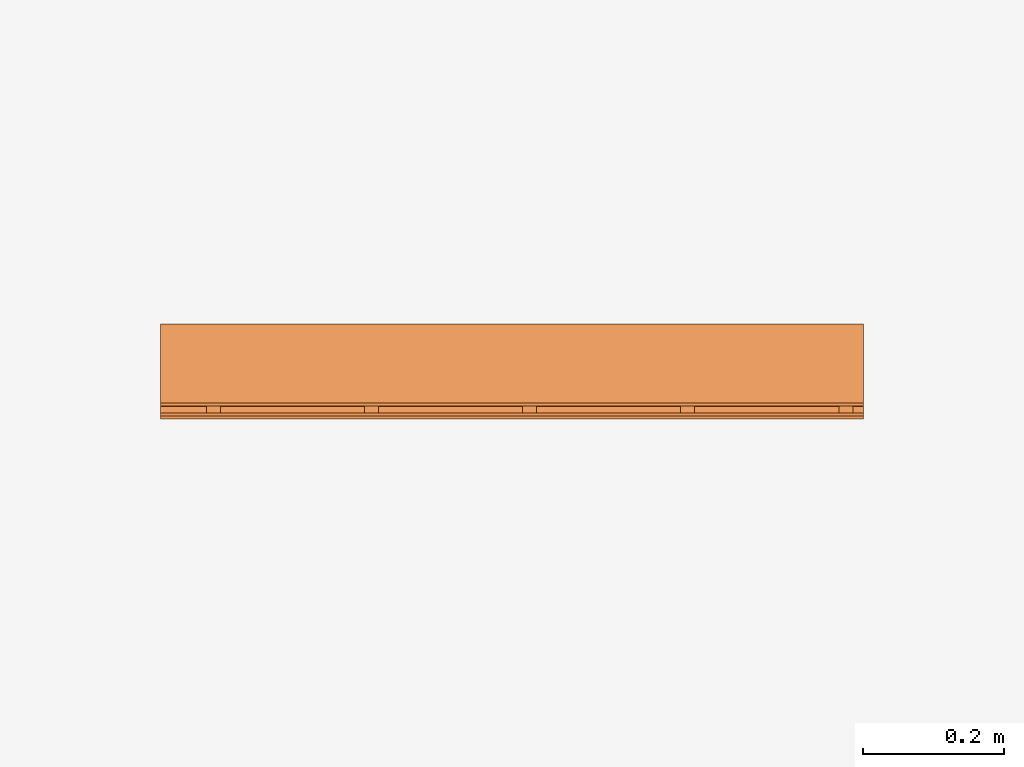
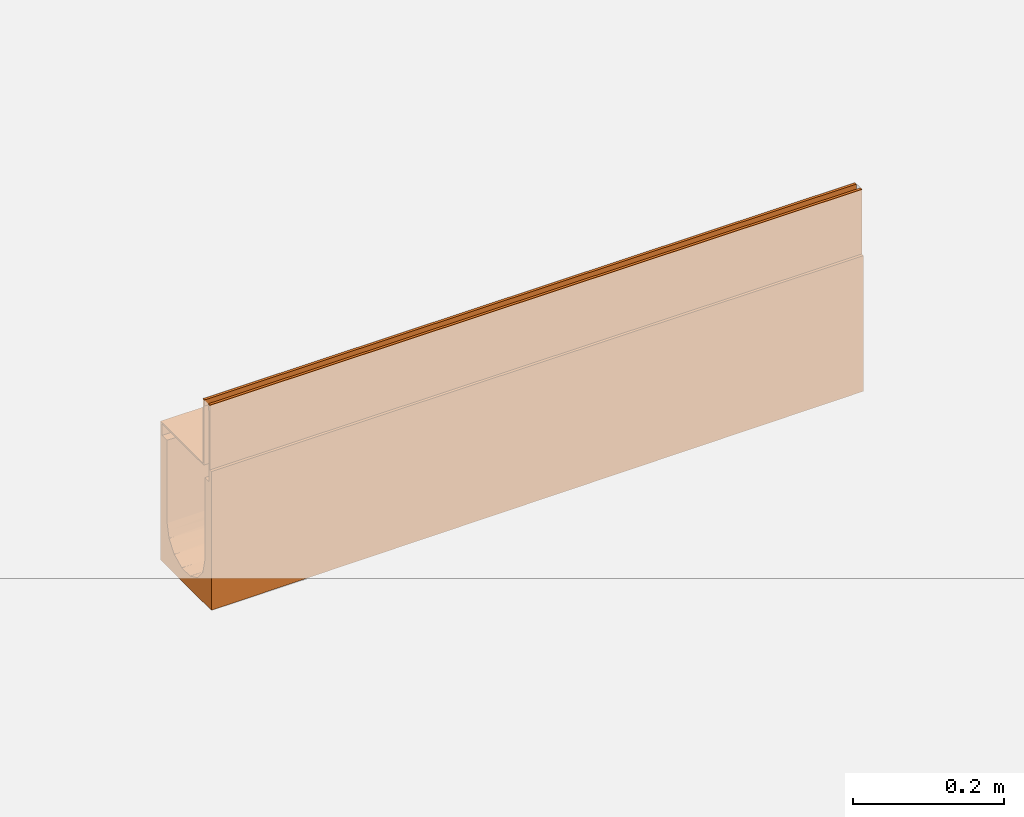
# One storey, part 2 of 2: 1 proxy.
"""IFC2X3 building model written with IfcOpenShell, lengths in millimetres."""

from ifc_helpers import new_model, entity, si_unit, converted_unit, direction, frame, origin, place, context, subcontext, project, spatial, faceted_brep, source, transform, mapped, material, material_list, element, save


model = new_model("IFC2X3")

# Units and contexts
model_context = context("Model", 3, precision=1e-06, world=origin(), true_north=direction((2.0, 6.12303176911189e-17, 1.0)))
context_of_model = context(None, 3, precision=1e-06, world=origin(), true_north=direction((2.0, 6.12303176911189e-17, 1.0)))
body_context = subcontext(model_context, "Body", "Model", "MODEL_VIEW")
ifc_project = project(units=[si_unit("LENGTHUNIT", "METRE", prefix="MILLI"), si_unit("AREAUNIT", "SQUARE_METRE", prefix="MILLI"), si_unit("VOLUMEUNIT", "CUBIC_METRE", prefix="MILLI"), converted_unit("PLANEANGLEUNIT", "DEGREE", entity("IfcRatioMeasure", 0.0174532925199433), si_unit("PLANEANGLEUNIT", "RADIAN"), dimensions=[0, 0, 0, 0, 0, 0, 0]), si_unit("TIMEUNIT", "SECOND")], contexts=[model_context, context_of_model])

# Site, building, storey
site_placement = place(None, origin())
site = spatial("IfcSite", under=ifc_project, at=site_placement, Name="Default", CompositionType="ELEMENT")
building_placement = place(site_placement, origin())
building = spatial("IfcBuilding", under=site, at=building_placement, CompositionType="ELEMENT")
storey_placement = place(building_placement, origin())
storey = spatial("IfcBuildingStorey", under=building, at=storey_placement, Name="Level 1", CompositionType="ELEMENT", Elevation=0.0)

# Proxy
ifc_material_1 = material(Name="Steel, Galvanized")
ifc_material_2 = material(Name="Vienite® Synthetic Resin Concrete")
ifc_material_list = material_list([ifc_material_1, ifc_material_2])
shared_shape = source(origin(), body_context, "Body", "Brep", [
    faceted_brep([(63.249999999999, 15.0, -107.0), (63.249999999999, 17.0, -109.0), (63.249999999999, 33.0, -109.0), (63.249999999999, 35.0, -107.0), (63.249999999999, 17.0, -123.499999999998), (63.249999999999, 15.0, -125.499999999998), (63.249999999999, 33.0, -123.499999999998), (63.249999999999, 35.0, -125.499999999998), (-61.250000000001, 15.0, -125.499999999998), (-61.250000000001, 17.0, -123.499999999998), (-61.250000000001, 33.0, -123.499999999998), (-61.250000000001, 35.0, -125.499999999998), (-61.250000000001, 17.0, -109.0), (-61.250000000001, 15.0, -107.0), (-61.250000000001, 33.0, -109.0), (-61.250000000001, 35.0, -107.0)], [[[0, 1, 2, 3]], [[4, 1, 0, 5]], [[3, 2, 6, 7]], [[6, 4, 5, 7]], [[8, 9, 10, 11]], [[12, 9, 8, 13]], [[11, 10, 14, 15]], [[14, 12, 13, 15]], [[5, 0, 13, 8]], [[7, 5, 8, 11]], [[3, 7, 11, 15]], [[0, 3, 15, 13]], [[1, 4, 9, 12]], [[14, 2, 1, 12]], [[6, 2, 14, 10]], [[9, 4, 6, 10]]]),
    faceted_brep([(-47.2500000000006, 0.0, -10.0), (-47.2500000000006, 0.0, -107.0), (-45.2500000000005, 0.0, -105.0), (-45.2500000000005, 0.0, 0.0), (-49.2500000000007, 0.0, 0.0), (-49.2500000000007, 0.0, -10.0), (63.2499999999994, 0.0, -107.0), (63.2499999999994, 0.0, -105.0), (-45.2500000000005, 1000.0, -105.0), (63.2499999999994, 1000.0, -105.0), (63.2499999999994, 1000.0, -107.0), (-47.2500000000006, 1000.0, -107.0), (-47.2500000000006, 1000.0, -10.0), (-45.2500000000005, 1000.0, 0.0), (-49.2500000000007, 1000.0, -10.0), (-49.2500000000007, 1000.0, 0.0)], [[[0, 1, 2, 3]], [[4, 5, 0, 3]], [[6, 7, 2, 1]], [[8, 9, 10, 11]], [[12, 13, 8, 11]], [[12, 14, 15, 13]], [[0, 5, 14, 12]], [[11, 1, 0, 12]], [[6, 1, 11, 10]], [[9, 7, 6, 10]], [[8, 2, 7, 9]], [[3, 2, 8, 13]], [[15, 4, 3, 13]], [[5, 4, 15, 14]]]),
    faceted_brep([(-59.2500000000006, 1000.0, 0.0), (-59.2500000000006, 1000.0, -10.0), (-61.2500000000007, 1000.0, -10.0), (-63.2500000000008, 1000.0, 0.0), (-63.2500000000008, 1000.0, -125.499999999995), (-61.2500000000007, 1000.0, -125.499999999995), (-61.2500000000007, 0.0, -10.0), (-63.2500000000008, 0.0, 0.0), (-63.2500000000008, 0.0, -125.499999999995), (-61.2500000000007, 0.0, -125.499999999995), (-59.2500000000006, 0.0, 0.0), (-59.2500000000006, 0.0, -10.0)], [[[0, 1, 2, 3]], [[4, 3, 2, 5]], [[6, 7, 8, 9]], [[10, 7, 6, 11]], [[9, 8, 4, 5]], [[6, 9, 5, 2]], [[11, 6, 2, 1]], [[10, 11, 1, 0]], [[3, 7, 10, 0]], [[4, 8, 7, 3]]]),
    faceted_brep([(63.2499999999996, 465.0, -107.0), (63.2499999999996, 467.0, -109.0), (63.2499999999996, 483.0, -109.0), (63.2499999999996, 485.0, -107.0), (63.2499999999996, 467.0, -123.499999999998), (63.2499999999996, 465.0, -125.499999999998), (63.2499999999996, 483.0, -123.499999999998), (63.2499999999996, 485.0, -125.499999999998), (-61.2500000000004, 465.0, -125.499999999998), (-61.2500000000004, 467.0, -123.499999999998), (-61.2500000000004, 483.0, -123.499999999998), (-61.2500000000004, 485.0, -125.499999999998), (-61.2500000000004, 467.0, -109.0), (-61.2500000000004, 465.0, -107.0), (-61.2500000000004, 483.0, -109.0), (-61.2500000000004, 485.0, -107.0)], [[[0, 1, 2, 3]], [[4, 1, 0, 5]], [[3, 2, 6, 7]], [[6, 4, 5, 7]], [[8, 9, 10, 11]], [[12, 9, 8, 13]], [[11, 10, 14, 15]], [[14, 12, 13, 15]], [[5, 0, 13, 8]], [[7, 5, 8, 11]], [[3, 7, 11, 15]], [[0, 3, 15, 13]], [[1, 4, 9, 12]], [[2, 1, 12, 14]], [[6, 2, 14, 10]], [[4, 6, 10, 9]]]),
    faceted_brep([(63.2499999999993, 240.0, -107.0), (63.2499999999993, 242.0, -109.0), (63.2499999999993, 258.0, -109.0), (63.2499999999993, 260.0, -107.0), (63.2499999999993, 242.0, -123.499999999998), (63.2499999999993, 240.0, -125.499999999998), (63.2499999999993, 258.0, -123.499999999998), (63.2499999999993, 260.0, -125.499999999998), (-61.2500000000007, 240.0, -125.499999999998), (-61.2500000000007, 242.0, -123.499999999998), (-61.2500000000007, 258.0, -123.499999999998), (-61.2500000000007, 260.0, -125.499999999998), (-61.2500000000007, 242.0, -109.0), (-61.2500000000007, 240.0, -107.0), (-61.2500000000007, 258.0, -109.0), (-61.2500000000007, 260.0, -107.0)], [[[0, 1, 2, 3]], [[4, 1, 0, 5]], [[3, 2, 6, 7]], [[6, 4, 5, 7]], [[8, 9, 10, 11]], [[12, 9, 8, 13]], [[11, 10, 14, 15]], [[14, 12, 13, 15]], [[5, 0, 13, 8]], [[7, 5, 8, 11]], [[3, 7, 11, 15]], [[0, 3, 15, 13]], [[1, 4, 9, 12]], [[2, 1, 12, 14]], [[6, 2, 14, 10]], [[4, 6, 10, 9]]]),
    faceted_brep([(63.2500000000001, 915.0, -107.0), (63.2500000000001, 917.0, -109.0), (63.2500000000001, 933.0, -109.0), (63.2500000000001, 935.0, -107.0), (63.2500000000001, 917.0, -123.499999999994), (63.2500000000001, 915.0, -125.499999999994), (63.2500000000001, 933.0, -123.499999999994), (63.2500000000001, 935.0, -125.499999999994), (-61.2499999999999, 915.0, -125.499999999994), (-61.2499999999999, 917.0, -123.499999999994), (-61.2499999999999, 933.0, -123.499999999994), (-61.2499999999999, 935.0, -125.499999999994), (-61.2499999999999, 917.0, -109.0), (-61.2499999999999, 915.0, -107.0), (-61.2499999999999, 933.0, -109.0), (-61.2499999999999, 935.0, -107.0)], [[[0, 1, 2, 3]], [[4, 1, 0, 5]], [[3, 2, 6, 7]], [[6, 4, 5, 7]], [[8, 9, 10, 11]], [[12, 9, 8, 13]], [[11, 10, 14, 15]], [[14, 12, 13, 15]], [[5, 0, 13, 8]], [[11, 7, 5, 8]], [[3, 7, 11, 15]], [[13, 0, 3, 15]], [[1, 4, 9, 12]], [[2, 1, 12, 14]], [[6, 2, 14, 10]], [[4, 6, 10, 9]]]),
    faceted_brep([(63.2499999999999, 690.0, -107.0), (63.2499999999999, 692.0, -109.0), (63.2499999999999, 708.0, -109.0), (63.2499999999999, 710.0, -107.0), (63.2499999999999, 692.0, -123.499999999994), (63.2499999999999, 690.0, -125.499999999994), (63.2499999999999, 708.0, -123.499999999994), (63.2499999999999, 710.0, -125.499999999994), (-61.2500000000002, 690.0, -125.499999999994), (-61.2500000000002, 692.0, -123.499999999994), (-61.2500000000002, 708.0, -123.499999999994), (-61.2500000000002, 710.0, -125.499999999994), (-61.2500000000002, 692.0, -109.0), (-61.2500000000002, 690.0, -107.0), (-61.2500000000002, 708.0, -109.0), (-61.2500000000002, 710.0, -107.0)], [[[0, 1, 2, 3]], [[4, 1, 0, 5]], [[3, 2, 6, 7]], [[6, 4, 5, 7]], [[8, 9, 10, 11]], [[12, 9, 8, 13]], [[11, 10, 14, 15]], [[14, 12, 13, 15]], [[5, 0, 13, 8]], [[11, 7, 5, 8]], [[3, 7, 11, 15]], [[13, 0, 3, 15]], [[1, 4, 9, 12]], [[2, 1, 12, 14]], [[6, 2, 14, 10]], [[4, 6, 10, 9]]]),
    faceted_brep([(-67.4999999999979, 1000.0, -105.0), (-63.2499999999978, 1000.0, -105.0), (-63.2499999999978, 1000.0, -125.500000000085), (-67.4999999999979, 1000.0, -330.0), (-50.0, 1000.0, -125.500000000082), (-50.0, 1000.0, -260.0), (-47.5242216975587, 1000.0, -270.847093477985), (-45.0484433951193, 1000.0, -281.694186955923), (-31.1744900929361, 1000.0, -299.091574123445), (-21.1502683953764, 1000.0, -303.91898486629), (-11.1260466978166, 1000.0, -308.746395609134), (-38.1114667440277, 1000.0, -290.392880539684), (0.0, 1000.0, -308.746395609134), (11.126046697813, 1000.0, -308.746395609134), (50.0, 1000.0, -260.0), (50.0, 1000.0, -125.500000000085), (63.249999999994, 1000.0, -125.500000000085), (67.500000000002, 1000.0, -330.0), (63.249999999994, 1000.0, -105.0), (67.500000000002, 1000.0, -105.0), (21.1502683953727, 1000.0, -303.91898486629), (31.1744900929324, 1000.0, -299.091574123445), (45.0484433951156, 1000.0, -281.694186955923), (47.5242216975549, 1000.0, -270.847093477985), (38.111466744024, 1000.0, -290.392880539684), (-67.5000000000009, 0.0, -325.0), (-45.0484433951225, 0.0, -276.694186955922), (-46.5542373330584, 0.0, -270.096872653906), (-50.0, 0.0, -255.0), (-31.1744900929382, 0.0, -294.091574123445), (-38.1114667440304, 0.0, -285.392880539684), (-11.1260466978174, 0.0, -303.746395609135), (-21.1502683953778, 0.0, -298.91898486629), (11.1260466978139, 0.0, -303.746395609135), (0.0, 0.0, -303.746395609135), (67.4999999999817, 0.0, -325.0), (-63.2499999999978, 0.0, -125.500000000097), (-63.2499999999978, 0.0, -105.0), (-67.5000000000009, 0.0, -105.0), (-50.0, 0.0, -125.500000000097), (31.1744900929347, 0.0, -294.091574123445), (21.1502683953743, 0.0, -298.91898486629), (50.0, 0.0, -255.0), (46.5542371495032, 0.0, -270.096873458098), (45.0484433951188, 0.0, -276.694186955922), (38.1114667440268, 0.0, -285.392880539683), (63.2500000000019, 0.0, -125.500000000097), (50.0, 0.0, -125.500000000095), (67.4999999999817, 0.0, -105.0), (63.2500000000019, 0.0, -105.0), (-50.0, 250.000013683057, -256.25000006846), (-35.5430016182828, 477.55479373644, -292.554449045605), (-39.0915746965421, 301.904841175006, -287.684013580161), (-30.4065854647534, 315.866317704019, -296.271138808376), (39.0915767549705, 653.204744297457, -289.44051051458), (43.1307072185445, 488.864082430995, -282.737443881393), (44.2106003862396, 635.514288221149, -281.531860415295), (-39.0915747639, 653.204746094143, -289.440513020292), (-29.696093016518, 646.565597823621, -298.458964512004), (-47.3876306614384, 374.999991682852, -272.82531219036), (-48.89171460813, 518.387005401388, -268.060948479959), (-2.91588081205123e-06, 301.904832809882, -306.509524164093), (-10.9684170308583, 305.042894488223, -305.307320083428), (-5.5982252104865, 150.952413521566, -305.440372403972), (12.0741057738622, 315.866299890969, -305.099594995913), (5.33371147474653, 477.554791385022, -307.10247522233), (35.3553400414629, 150.952387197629, -291.110100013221), (-41.8233658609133, 146.584549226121, -283.133763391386), (42.1728888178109, 829.135588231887, -286.005451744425), (47.0016510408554, 843.632235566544, -276.272333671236), (-50.0, 749.999986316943, -258.749999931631), (-47.0016499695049, 843.632222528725, -276.27233655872), (-21.6941880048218, 209.065851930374, -301.093772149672), (-35.3553394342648, 150.952420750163, -291.110100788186), (-34.4525207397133, 816.145858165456, -295.316399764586), (-25.646806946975, 806.214865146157, -301.952412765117), (21.6941814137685, 500.0, -302.548446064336), (29.6960925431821, 646.565642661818, -298.458965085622), (16.1554098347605, 747.818208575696, -306.057192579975), (-3.27550310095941e-06, 653.204751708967, -308.266023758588), (-8.54111809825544, 477.617179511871, -306.653178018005), (21.6941852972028, 209.065841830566, -301.093773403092), (-46.4228776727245, 186.188946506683, -274.502870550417), (34.4525215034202, 816.145876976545, -295.316399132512), (49.2918467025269, 134.881431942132, -264.0597424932), (47.3876313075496, 374.999975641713, -272.825310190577), (46.4228780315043, 186.188933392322, -274.502869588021), (-50.0, 499.999972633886, -257.499999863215), (39.0915763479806, 301.904795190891, -287.684011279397), (41.8233665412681, 146.584526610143, -283.133762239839), (25.6468067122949, 806.214870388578, -301.952412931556), (-5.38536224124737, 826.602379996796, -308.842144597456), (-16.1554121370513, 747.81816965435, -306.057191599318), (35.5430053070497, 477.554758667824, -292.554445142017), (-42.1728873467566, 829.135597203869, -286.005454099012), (5.59822218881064, 150.952412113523, -305.440372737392), (30.4065855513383, 315.866251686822, -296.271138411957), (-43.1307054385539, 488.864104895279, -282.737447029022), (-44.2105988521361, 635.514296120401, -281.531863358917), (-49.2918465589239, 134.881438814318, -264.059743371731), (-47.7236140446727, 671.453379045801, -273.272248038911), (48.8917149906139, 518.386993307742, -268.060946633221), (50.0, 250.000027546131, -256.250000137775), (50.0, 499.999944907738, -257.499999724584), (50.0, 749.999972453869, -258.749999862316), (47.7236147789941, 671.453375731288, -273.272245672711), (-22.9273943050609, 354.532924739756, -301.206149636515), (-21.6941890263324, 500.0, -302.548442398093), (5.80423086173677, 807.818012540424, -308.701056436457), (22.9273914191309, 354.532889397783, -301.206150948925)], [[[0, 1, 2, 3]], [[2, 4, 5, 3]], [[3, 5, 6, 7]], [[3, 8, 9, 10]], [[3, 7, 11, 8]], [[3, 10, 12, 13]], [[14, 15, 16, 17]], [[16, 18, 19, 17]], [[17, 13, 20, 21]], [[17, 22, 23, 14]], [[17, 21, 24, 22]], [[13, 17, 3]], [[25, 26, 27, 28]], [[25, 29, 30, 26]], [[25, 31, 32, 29]], [[33, 34, 25, 35]], [[36, 37, 38, 25]], [[28, 39, 36, 25]], [[35, 40, 41, 33]], [[35, 42, 43, 44]], [[35, 44, 45, 40]], [[46, 47, 42, 35]], [[48, 49, 46, 35]], [[1, 37, 36, 2]], [[0, 38, 37, 1]], [[0, 3, 25, 38]], [[3, 17, 35, 25]], [[19, 48, 35, 17]], [[18, 49, 48, 19]], [[16, 46, 49, 18]], [[16, 15, 47, 46]], [[4, 39, 28, 50]], [[2, 36, 39, 4]], [[51, 52, 53]], [[54, 55, 56]], [[57, 51, 58]], [[59, 60, 50]], [[61, 62, 63]], [[61, 64, 65]], [[40, 45, 66]], [[30, 67, 26]], [[68, 69, 22]], [[70, 71, 6]], [[29, 72, 73]], [[74, 75, 8]], [[76, 77, 78]], [[65, 79, 80]], [[66, 81, 40]], [[27, 26, 82]], [[24, 83, 68]], [[84, 85, 86]], [[87, 50, 60, 70]], [[88, 66, 89]], [[58, 75, 74]], [[83, 90, 77]], [[91, 10, 92]], [[76, 93, 77]], [[54, 93, 55]], [[94, 57, 74]], [[30, 73, 67]], [[63, 72, 31]], [[61, 63, 95]], [[72, 53, 73]], [[45, 89, 66]], [[93, 76, 96]], [[97, 98, 60]], [[27, 82, 99]], [[52, 51, 97]], [[98, 94, 71]], [[98, 71, 100]], [[101, 102, 103, 104]], [[102, 101, 85]], [[84, 86, 43]], [[104, 69, 105]], [[69, 68, 56]], [[28, 27, 99]], [[52, 59, 82]], [[99, 59, 50]], [[72, 29, 32, 31]], [[29, 73, 30]], [[67, 52, 82]], [[95, 34, 33]], [[73, 53, 52]], [[72, 106, 53]], [[107, 58, 51]], [[107, 51, 53]], [[97, 51, 57]], [[58, 107, 92]], [[74, 57, 58]], [[80, 92, 107]], [[79, 108, 91]], [[98, 97, 57]], [[52, 97, 59]], [[52, 67, 73]], [[26, 67, 82]], [[92, 10, 9]], [[74, 11, 94]], [[92, 9, 75]], [[94, 7, 71]], [[75, 58, 92]], [[59, 99, 82]], [[28, 99, 50]], [[11, 74, 8]], [[11, 7, 94]], [[8, 75, 9]], [[70, 6, 5]], [[71, 70, 100]], [[71, 7, 6]], [[43, 86, 44]], [[42, 102, 84]], [[88, 86, 85]], [[42, 84, 43]], [[85, 84, 102]], [[81, 66, 96]], [[86, 89, 44]], [[81, 33, 41, 40]], [[96, 66, 88]], [[95, 64, 61]], [[93, 96, 88]], [[109, 81, 96]], [[55, 88, 85]], [[93, 54, 77]], [[54, 83, 77]], [[90, 78, 77]], [[12, 91, 108]], [[65, 78, 79]], [[88, 55, 93]], [[55, 85, 101]], [[44, 89, 45]], [[88, 89, 86]], [[68, 83, 54]], [[20, 90, 21]], [[68, 54, 56]], [[24, 21, 83]], [[78, 20, 13]], [[68, 22, 24]], [[21, 90, 83]], [[20, 78, 90]], [[101, 104, 105]], [[104, 23, 69]], [[23, 104, 14]], [[91, 92, 79]], [[23, 22, 69]], [[63, 31, 34]], [[33, 81, 95]], [[64, 95, 81]], [[109, 64, 81]], [[76, 78, 65]], [[76, 65, 64]], [[79, 92, 80]], [[107, 106, 62]], [[61, 65, 80]], [[95, 63, 34]], [[61, 80, 62]], [[107, 62, 80]], [[72, 63, 62]], [[97, 60, 59]], [[70, 60, 100]], [[101, 105, 56]], [[62, 106, 72]], [[107, 53, 106]], [[94, 98, 57]], [[60, 98, 100]], [[96, 76, 109]], [[64, 109, 76]], [[101, 56, 55]], [[56, 105, 69]], [[108, 79, 78]], [[10, 91, 12]], [[78, 13, 108]], [[12, 108, 13]], [[15, 14, 104, 103]], [[47, 15, 42]], [[25, 34, 31]], [[4, 50, 87, 70]], [[4, 70, 5]], [[15, 103, 102, 42]]]),
])
proxy_placement = place(storey_placement, frame((143.656586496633, 99.9218925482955, 0.0), z_axis=(0.0, 0.0, 1.0), x_axis=(0.0, 1.0, 0.0)))
element("IfcBuildingElementProxy", 1, at=proxy_placement, inside=storey, material=ifc_material_list, Name="Civil-Drainage-Channel-ACO-MultiDrain-M100D-Brickslot-Channel-System:23015 - No 15 Sloping Channel - 1000mm LG - Invert Depth 200/205mm:23015 - No 15 Sloping Channel - 1000mm LG - Invert Depth 200/205mm", ObjectType="23015 - No 15 Sloping Channel - 1000mm LG - Invert Depth 200/205mm", CompositionType="ELEMENT", context=body_context, shape_type="MappedRepresentation", body=[
    mapped(shared_shape, transform((0.0, 0.0, 0.0), scale=1.0)),
])

save(model, "model.ifc")
